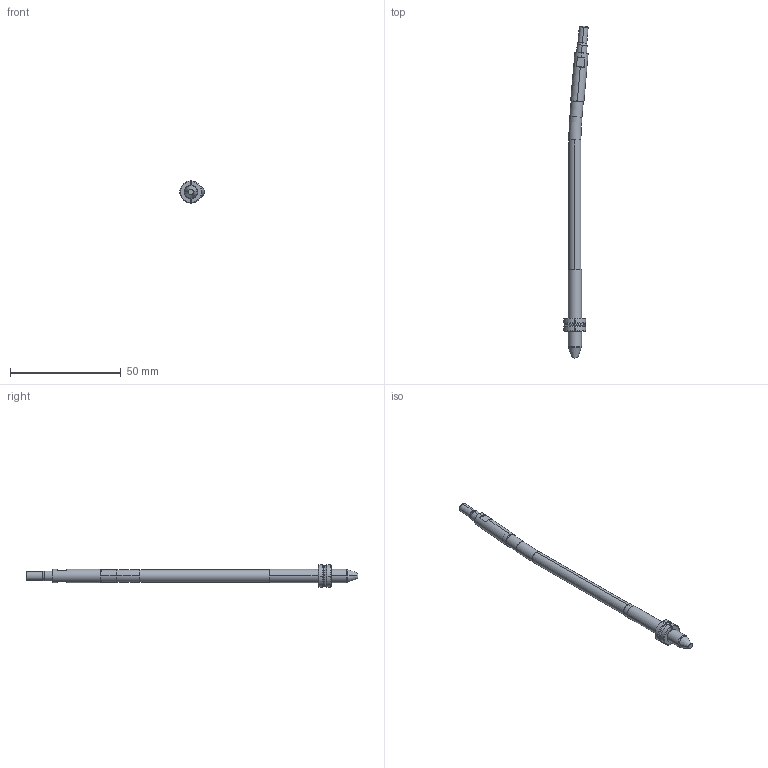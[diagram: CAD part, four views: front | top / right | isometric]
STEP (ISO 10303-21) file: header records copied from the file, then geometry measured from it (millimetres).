
FILE_DESCRIPTION (( 'STEP AP214' ), '1' );
FILE_NAME ('WP060060-OFF 5°.STEP', '2020-04-30T09:30:11', ( '' ), ( '' ), 'SwSTEP 2.0', 'SolidWorks 2019', '' );
FILE_SCHEMA (( 'AUTOMOTIVE_DESIGN' ));
Length unit declared in the file: millimetre
Products named in the file (6): WEB-006-9WP060030-6; WEB-002-9WP060030-2; WEB-008-JUNTA-JT7X1X9; WEB-001-9WP060030-1; WP060060-OFF 5°; WEB-007-9WP060060-F_WP060060-F-OFF 5ø
Assembly tree (5 placements, depth 2):
  WP060060-OFF 5°
    WEB-001-9WP060030-1
    WEB-007-9WP060060-F_WP060060-F-OFF 5ø
    WEB-002-9WP060030-2
    WEB-006-9WP060030-6
    WEB-008-JUNTA-JT7X1X9
Bounding box: 10.99 x 149.78 x 9.99 mm (x, y, z)
Volume: 3873.9 mm3; surface area: 3434.3 mm2
Topology: 6 solids, 6 shells, 112 faces, 262 edges, 164 vertices
Faces by surface type: cylinder 36, cone 28, plane 28, torus 20
Entity records: 3723 total; most frequent: CARTESIAN_POINT 714, DIRECTION 598, ORIENTED_EDGE 524, EDGE_CURVE 262, AXIS2_PLACEMENT_3D 256, VERTEX_POINT 164, CIRCLE 136, EDGE_LOOP 116
